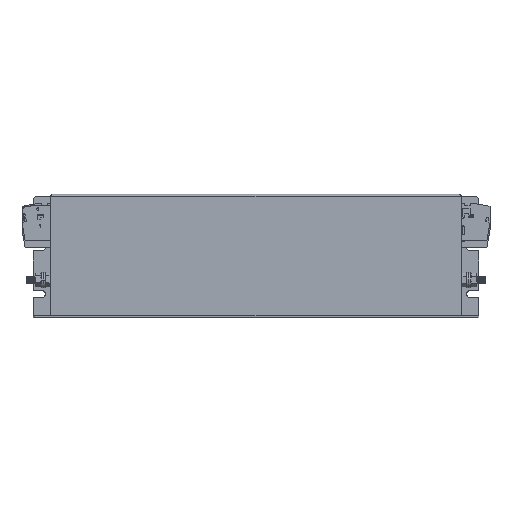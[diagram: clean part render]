
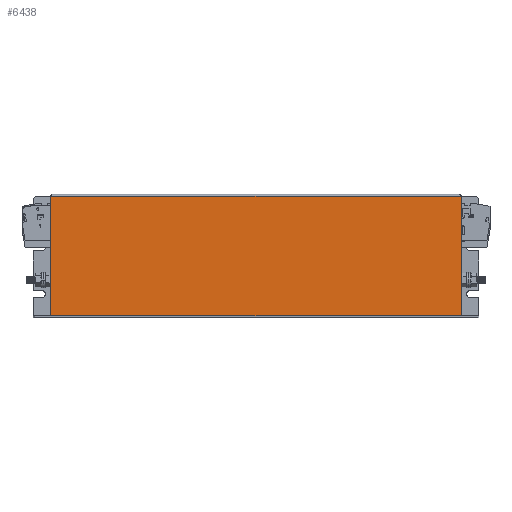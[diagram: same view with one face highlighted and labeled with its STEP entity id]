
A CAD part, top view. The second image highlights one B-rep face of the part: STEP entity #6438.
In plain terms, the highlighted planar face has unit normal (0, 0, 1).
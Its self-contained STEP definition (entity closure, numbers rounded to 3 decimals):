
#111 = CARTESIAN_POINT ( 'NONE',  ( 365., 105., 1.5 ) ) ;
#268 = CARTESIAN_POINT ( 'NONE',  ( 365., 103.5, 1.5 ) ) ;
#892 = CARTESIAN_POINT ( 'NONE',  ( 15., 105., 1.5 ) ) ;
#1484 = CARTESIAN_POINT ( 'NONE',  ( 365., 1.5, 1.5 ) ) ;
#2953 = AXIS2_PLACEMENT_3D ( 'NONE', #892, #7172, #25610 ) ;
#5133 = ORIENTED_EDGE ( 'NONE', *, *, #11739, .F. ) ;
#5298 = VECTOR ( 'NONE', #22092, 1000. ) ;
#6302 = VECTOR ( 'NONE', #19679, 1000. ) ;
#6438 = ADVANCED_FACE ( 'NONE', ( #15108 ), #15097, .F. ) ;
#7000 = LINE ( 'NONE', #111, #22628 ) ;
#7172 = DIRECTION ( 'NONE',  ( 0., 0., -1. ) ) ;
#7421 = CARTESIAN_POINT ( 'NONE',  ( 15., 1.5, 1.5 ) ) ;
#9483 = LINE ( 'NONE', #23954, #5298 ) ;
#11524 = LINE ( 'NONE', #18605, #21716 ) ;
#11739 = EDGE_CURVE ( 'NONE', #11868, #12707, #7000, .T. ) ;
#11868 = VERTEX_POINT ( 'NONE', #268 ) ;
#12372 = EDGE_LOOP ( 'NONE', ( #5133, #20537, #23948, #25912 ) ) ;
#12572 = EDGE_CURVE ( 'NONE', #23949, #21493, #13319, .T. ) ;
#12707 = VERTEX_POINT ( 'NONE', #1484 ) ;
#13319 = LINE ( 'NONE', #21568, #6302 ) ;
#14052 = DIRECTION ( 'NONE',  ( 0., -1., 0. ) ) ;
#14781 = CARTESIAN_POINT ( 'NONE',  ( 15., 103.5, 1.5 ) ) ;
#15097 = PLANE ( 'NONE',  #2953 ) ;
#15108 = FACE_OUTER_BOUND ( 'NONE', #12372, .T. ) ;
#17304 = EDGE_CURVE ( 'NONE', #21493, #12707, #11524, .T. ) ;
#17709 = EDGE_CURVE ( 'NONE', #11868, #23949, #9483, .T. ) ;
#18605 = CARTESIAN_POINT ( 'NONE',  ( 15., 1.5, 1.5 ) ) ;
#19679 = DIRECTION ( 'NONE',  ( 0., -1., 0. ) ) ;
#20537 = ORIENTED_EDGE ( 'NONE', *, *, #17709, .T. ) ;
#21493 = VERTEX_POINT ( 'NONE', #7421 ) ;
#21568 = CARTESIAN_POINT ( 'NONE',  ( 15., 105., 1.5 ) ) ;
#21716 = VECTOR ( 'NONE', #22742, 1000. ) ;
#22092 = DIRECTION ( 'NONE',  ( -1., 0., 0. ) ) ;
#22628 = VECTOR ( 'NONE', #14052, 1000. ) ;
#22742 = DIRECTION ( 'NONE',  ( 1., 0., 0. ) ) ;
#23948 = ORIENTED_EDGE ( 'NONE', *, *, #12572, .T. ) ;
#23949 = VERTEX_POINT ( 'NONE', #14781 ) ;
#23954 = CARTESIAN_POINT ( 'NONE',  ( 15., 103.5, 1.5 ) ) ;
#25610 = DIRECTION ( 'NONE',  ( -1., 0., 0. ) ) ;
#25912 = ORIENTED_EDGE ( 'NONE', *, *, #17304, .T. ) ;
